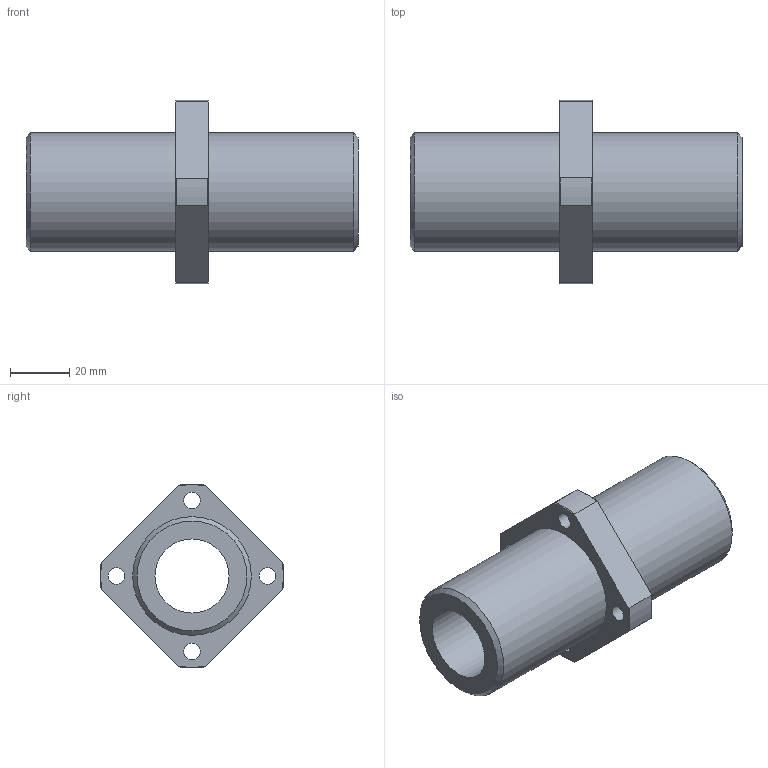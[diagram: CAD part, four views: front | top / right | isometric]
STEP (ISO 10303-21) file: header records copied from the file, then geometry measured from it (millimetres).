
FILE_DESCRIPTION(('STEP AP203'),'1');
FILE_NAME('//192.168.1.1/share/s-4 技術開発/s-4-4_CAD/s-4-4-3_見直し済み/PBC LINEAR修正済み/CFPJ/CFPJ_TOP/CFPJ/CFPJ25.step','2022-03-24T04:00:24',(' '),(' '),'Spatial InterOp 3D',' ',' ');
FILE_SCHEMA(('CONFIG_CONTROL_DESIGN'));
Length unit declared in the file: millimetre
Products named in the file (1): 1
Bounding box: 112 x 61.92 x 61.92 mm (x, y, z)
Volume: 96427.1 mm3; surface area: 27932.6 mm2
Topology: 1 solids, 1 shells, 37 faces, 91 edges, 62 vertices
Faces by surface type: cylinder 15, plane 12, cone 10
Full cylindrical faces by diameter (mm): 5.5 x4, 9 x4, 25 x1, 40 x2
Entity records: 1078 total; most frequent: CARTESIAN_POINT 214, DIRECTION 172, ORIENTED_EDGE 144, AXIS2_PLACEMENT_3D 78, EDGE_CURVE 72, EDGE_LOOP 66, VERTEX_POINT 56, FACE_OUTER_BOUND 48
